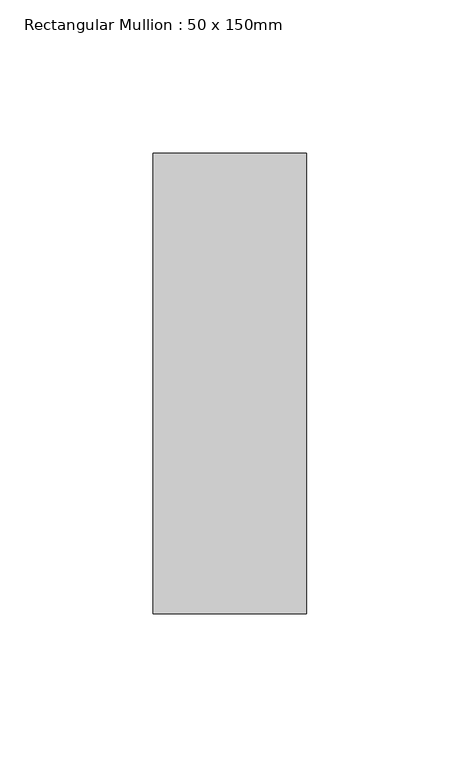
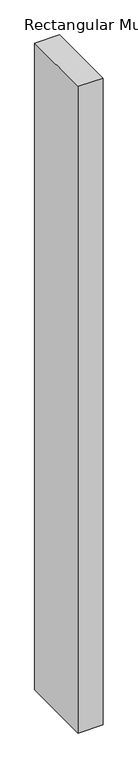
"""IFC4 building model written with IfcOpenShell, lengths in millimetres: member geometry, Rectangular Mullion : 50 x 150mm."""

from ifc_helpers import new_model, si_unit, frame, origin, place, context, project, spatial, polyline, outline, extrude, source, transform, mapped, element, save


def rectangular_mullion_50_x_150mm_0f1075ed(model_context):
    return source(origin(), model_context, "Body", "SweptSolid", [
        extrude(outline(polyline([(25.0, 75.0), (25.0, -75.0), (-25.0, -75.0), (-25.0, 75.0), (25.0, 75.0)])), frame((0.0, 0.0, -1364.1990236), z_axis=(0.0, 0.0, 1.0), x_axis=(1.0, 0.0, 0.0)), (0.0, 0.0, 1.0), 1364.1990236),
    ])


if __name__ == "__main__":
    model = new_model("IFC4")
    model_context = context("Model", 3, world=origin())
    ifc_project = project(units=[si_unit("LENGTHUNIT", "METRE", prefix="MILLI")], contexts=[model_context])
    site = spatial("IfcSite", under=ifc_project)
    building = spatial("IfcBuilding", under=site)
    placement = place(None, origin())
    rectangular_mullion_50_x_150mm_shape = rectangular_mullion_50_x_150mm_0f1075ed(model_context)
    element("IfcMember", 1, ObjectType="Rectangular Mullion : 50 x 150mm", at=placement, inside=building, context=model_context, shape_type="MappedRepresentation", body=[
        mapped(rectangular_mullion_50_x_150mm_shape, transform((0.0, 0.0, 0.0), x_axis=(1.0, 0.0, 0.0), y_axis=(0.0, 1.0, 0.0), z_axis=(0.0, 0.0, 1.0))),
    ])
    save(model, "model.ifc")
